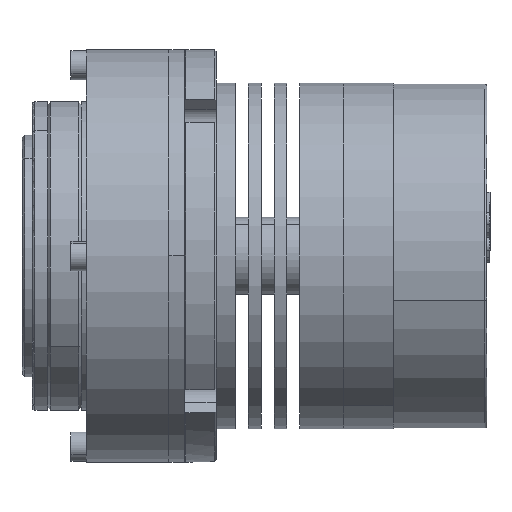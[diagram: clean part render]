
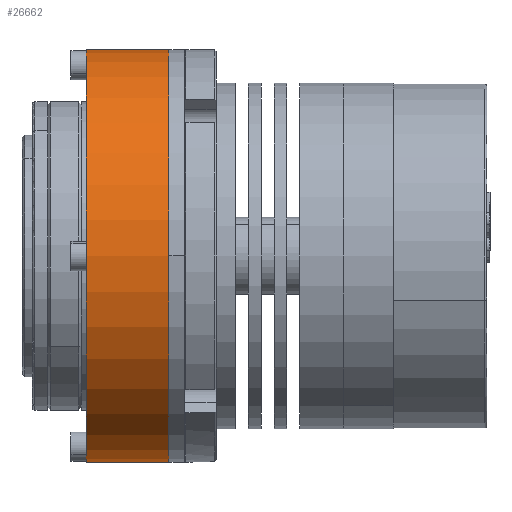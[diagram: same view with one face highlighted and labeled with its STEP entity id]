
A CAD part, left-side view. The second image highlights one B-rep face of the part: STEP entity #26662.
In plain terms, the highlighted cylindrical face has radius 40 mm (diameter 80 mm), a partial arc.
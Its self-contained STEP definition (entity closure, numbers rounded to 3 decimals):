
#539 = ORIENTED_EDGE ( 'NONE', *, *, #928, .F. ) ;
#928 = EDGE_CURVE ( 'NONE', #2954, #3045, #22540, .T. ) ;
#1789 = LINE ( 'NONE', #20683, #10458 ) ;
#2156 = DIRECTION ( 'NONE',  ( 0., 0., -1. ) ) ;
#2954 = VERTEX_POINT ( 'NONE', #30493 ) ;
#3045 = VERTEX_POINT ( 'NONE', #9719 ) ;
#3458 = CIRCLE ( 'NONE', #14325, 40. ) ;
#3690 = CARTESIAN_POINT ( 'NONE',  ( 0., 0., 0. ) ) ;
#4920 = ORIENTED_EDGE ( 'NONE', *, *, #10750, .T. ) ;
#6907 = ORIENTED_EDGE ( 'NONE', *, *, #24534, .F. ) ;
#8267 = ORIENTED_EDGE ( 'NONE', *, *, #9902, .T. ) ;
#8470 = LINE ( 'NONE', #17472, #15607 ) ;
#9421 = DIRECTION ( 'NONE',  ( 0., -1., 0. ) ) ;
#9719 = CARTESIAN_POINT ( 'NONE',  ( 0., 16., 40. ) ) ;
#9902 = EDGE_CURVE ( 'NONE', #2954, #17411, #8470, .T. ) ;
#10458 = VECTOR ( 'NONE', #20226, 1000. ) ;
#10750 = EDGE_CURVE ( 'NONE', #17411, #14665, #3458, .T. ) ;
#12293 = EDGE_LOOP ( 'NONE', ( #6907, #539, #8267, #4920 ) ) ;
#14325 = AXIS2_PLACEMENT_3D ( 'NONE', #3690, #29576, #20417 ) ;
#14665 = VERTEX_POINT ( 'NONE', #21198 ) ;
#15607 = VECTOR ( 'NONE', #29407, 1000. ) ;
#17411 = VERTEX_POINT ( 'NONE', #25247 ) ;
#17472 = CARTESIAN_POINT ( 'NONE',  ( 0., 16., -40. ) ) ;
#19586 = AXIS2_PLACEMENT_3D ( 'NONE', #21649, #28611, #28458 ) ;
#20226 = DIRECTION ( 'NONE',  ( 0., -1., 0. ) ) ;
#20417 = DIRECTION ( 'NONE',  ( 0., 0., 1. ) ) ;
#20683 = CARTESIAN_POINT ( 'NONE',  ( 0., 16., 40. ) ) ;
#21054 = CYLINDRICAL_SURFACE ( 'NONE', #29401, 40. ) ;
#21198 = CARTESIAN_POINT ( 'NONE',  ( 0., 0., 40. ) ) ;
#21649 = CARTESIAN_POINT ( 'NONE',  ( 0., 16., 0. ) ) ;
#22540 = CIRCLE ( 'NONE', #19586, 40. ) ;
#23527 = CARTESIAN_POINT ( 'NONE',  ( 0., 16., 0. ) ) ;
#24534 = EDGE_CURVE ( 'NONE', #3045, #14665, #1789, .T. ) ;
#25247 = CARTESIAN_POINT ( 'NONE',  ( 0., 0., -40. ) ) ;
#26662 = ADVANCED_FACE ( 'NONE', ( #27865 ), #21054, .T. ) ;
#27865 = FACE_OUTER_BOUND ( 'NONE', #12293, .T. ) ;
#28458 = DIRECTION ( 'NONE',  ( 0., 0., 1. ) ) ;
#28611 = DIRECTION ( 'NONE',  ( 0., 1., 0. ) ) ;
#29401 = AXIS2_PLACEMENT_3D ( 'NONE', #23527, #9421, #2156 ) ;
#29407 = DIRECTION ( 'NONE',  ( 0., -1., 0. ) ) ;
#29576 = DIRECTION ( 'NONE',  ( 0., 1., 0. ) ) ;
#30493 = CARTESIAN_POINT ( 'NONE',  ( 0., 16., -40. ) ) ;
